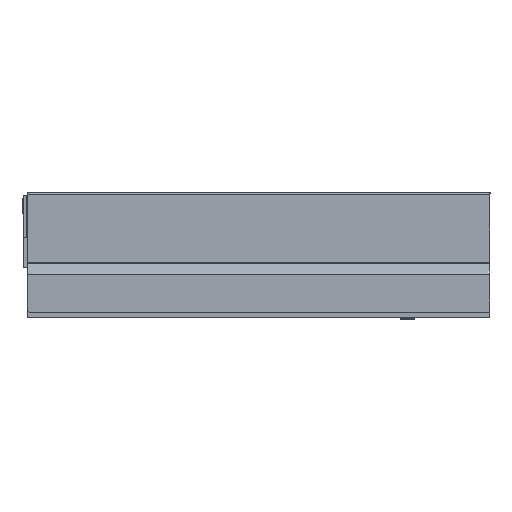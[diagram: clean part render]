
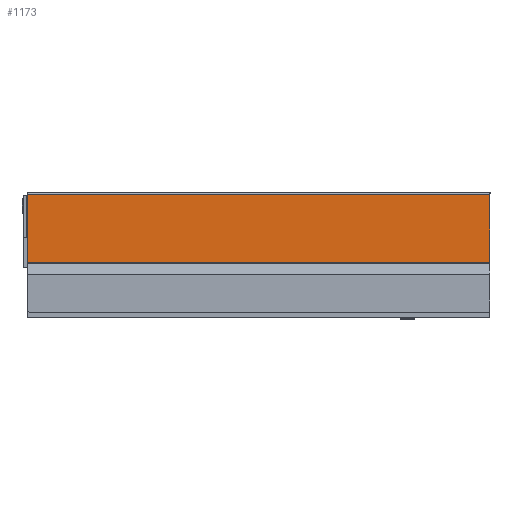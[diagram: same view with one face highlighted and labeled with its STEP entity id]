
A CAD part, left-side view. The second image highlights one B-rep face of the part: STEP entity #1173.
In plain terms, the highlighted planar face has unit normal (-1, 0, 0).
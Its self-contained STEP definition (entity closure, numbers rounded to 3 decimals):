
#9 = LINE ( 'NONE', #238, #69 ) ;
#69 = VECTOR ( 'NONE', #239, 1000. ) ;
#119 = VECTOR ( 'NONE', #241, 1000. ) ;
#138 = VECTOR ( 'NONE', #231, 1000. ) ;
#140 = LINE ( 'NONE', #230, #138 ) ;
#175 = LINE ( 'NONE', #240, #119 ) ;
#230 = CARTESIAN_POINT ( 'NONE',  ( 6.5, 144.577, 100. ) ) ;
#231 = DIRECTION ( 'NONE',  ( 0., -1., 0. ) ) ;
#238 = CARTESIAN_POINT ( 'NONE',  ( 6.5, 0., 34.728 ) ) ;
#239 = DIRECTION ( 'NONE',  ( 0., 0., 1. ) ) ;
#240 = CARTESIAN_POINT ( 'NONE',  ( 6.5, 447., 34.728 ) ) ;
#241 = DIRECTION ( 'NONE',  ( 0., 0., 1. ) ) ;
#475 = PLANE ( 'NONE',  #1893 ) ;
#476 = CARTESIAN_POINT ( 'NONE',  ( 6.5, 144.577, 34.728 ) ) ;
#477 = DIRECTION ( 'NONE',  ( -1., 0., 0. ) ) ;
#478 = DIRECTION ( 'NONE',  ( 0., 1., 0. ) ) ;
#700 = CARTESIAN_POINT ( 'NONE',  ( 6.5, 0., 100. ) ) ;
#704 = CARTESIAN_POINT ( 'NONE',  ( 6.5, 447., 100. ) ) ;
#789 = CARTESIAN_POINT ( 'NONE',  ( 6.5, 0., 34.728 ) ) ;
#791 = CARTESIAN_POINT ( 'NONE',  ( 6.5, 447., 34.728 ) ) ;
#959 = FACE_OUTER_BOUND ( 'NONE', #1260, .T. ) ;
#1034 = EDGE_CURVE ( 'NONE', #1758, #1756, #2136, .T. ) ;
#1086 = EDGE_CURVE ( 'NONE', #1585, #1579, #140, .T. ) ;
#1089 = EDGE_CURVE ( 'NONE', #1756, #1579, #9, .T. ) ;
#1090 = EDGE_CURVE ( 'NONE', #1758, #1585, #175, .T. ) ;
#1173 = ADVANCED_FACE ( 'NONE', ( #959 ), #475, .T. ) ;
#1260 = EDGE_LOOP ( 'NONE', ( #1341, #1335, #1338, #1339 ) ) ;
#1335 = ORIENTED_EDGE ( 'NONE', *, *, #1089, .T. ) ;
#1338 = ORIENTED_EDGE ( 'NONE', *, *, #1086, .F. ) ;
#1339 = ORIENTED_EDGE ( 'NONE', *, *, #1090, .F. ) ;
#1341 = ORIENTED_EDGE ( 'NONE', *, *, #1034, .T. ) ;
#1579 = VERTEX_POINT ( 'NONE', #700 ) ;
#1585 = VERTEX_POINT ( 'NONE', #704 ) ;
#1756 = VERTEX_POINT ( 'NONE', #789 ) ;
#1758 = VERTEX_POINT ( 'NONE', #791 ) ;
#1797 = CARTESIAN_POINT ( 'NONE',  ( 6.5, 144.577, 34.728 ) ) ;
#1798 = DIRECTION ( 'NONE',  ( 0., -1., 0. ) ) ;
#1893 = AXIS2_PLACEMENT_3D ( 'NONE', #476, #477, #478 ) ;
#2134 = VECTOR ( 'NONE', #1798, 1000. ) ;
#2136 = LINE ( 'NONE', #1797, #2134 ) ;
